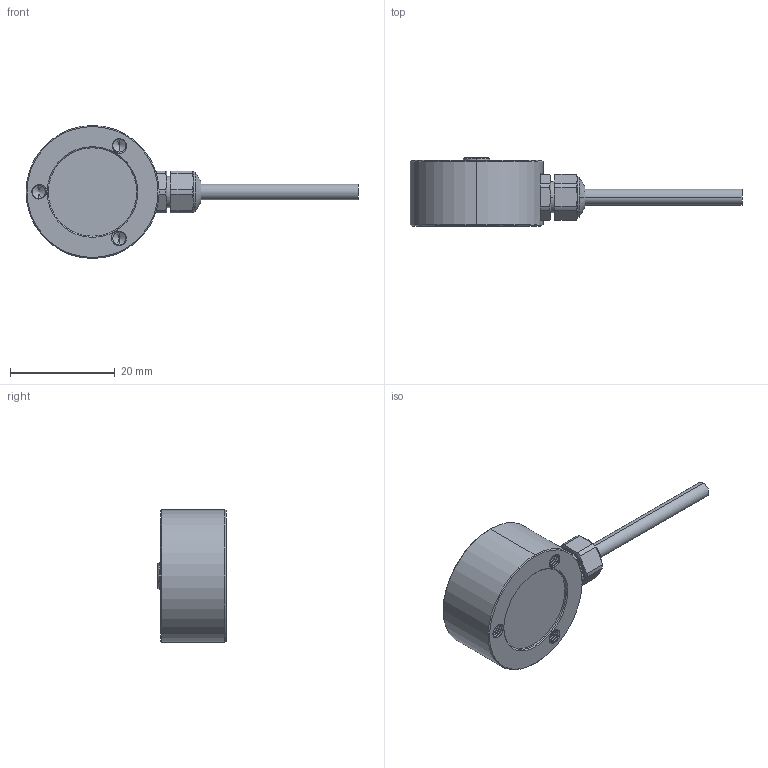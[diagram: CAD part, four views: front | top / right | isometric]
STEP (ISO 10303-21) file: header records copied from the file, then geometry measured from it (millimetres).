
FILE_DESCRIPTION (( 'STEP AP203' ), '1' );
FILE_NAME ('LCP07.STEP', '2024-07-16T05:05:50', ( '' ), ( '' ), 'SwSTEP 2.0', 'SolidWorks 2019', '' );
FILE_SCHEMA (( 'CONFIG_CONTROL_DESIGN' ));
Length unit declared in the file: millimetre
Products named in the file (1): LCP07
Bounding box: 63.4 x 13 x 25.4 mm (x, y, z)
Volume: 6522.1 mm3; surface area: 3016.9 mm2
Topology: 1 solids, 1 shells, 198 faces, 529 edges, 337 vertices
Faces by surface type: cylinder 121, plane 32, cone 27, bspline 12, torus 6
Entity records: 14762 total; most frequent: CARTESIAN_POINT 10388, ORIENTED_EDGE 1042, DIRECTION 764, EDGE_CURVE 521, VERTEX_POINT 337, AXIS2_PLACEMENT_3D 291, EDGE_LOOP 210, ADVANCED_FACE 198
